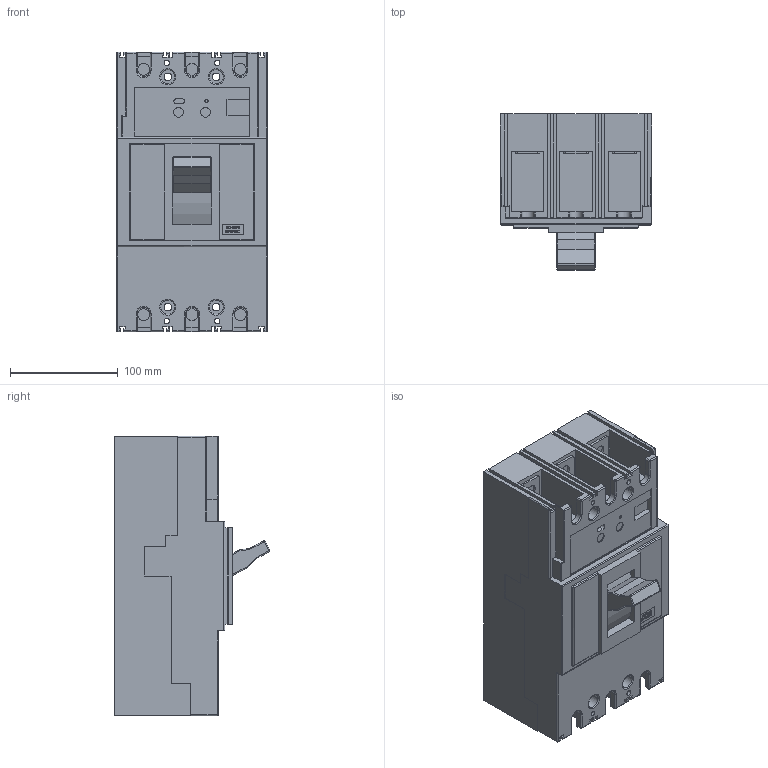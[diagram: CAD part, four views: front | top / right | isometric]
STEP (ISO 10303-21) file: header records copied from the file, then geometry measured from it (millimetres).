
FILE_DESCRIPTION((''),'2;1');
FILE_NAME('S400NJ3250','2012-09-20T',('cmahecha'),(''),'PRO/ENGINEER BY PARAMETRIC TECHNOLOGY CORPORATION, 2010280','PRO/ENGINEER BY PARAMETRIC TECHNOLOGY CORPORATION, 2010280','');
FILE_SCHEMA(('CONFIG_CONTROL_DESIGN'));
Length unit declared in the file: millimetre
Products named in the file (1): S400NJ3250
Bounding box: 140.4 x 144.93 x 260 mm (x, y, z)
Volume: 3304849.9 mm3; surface area: 221188.7 mm2
Topology: 1 solids, 1 shells, 759 faces, 2066 edges, 1348 vertices
Faces by surface type: plane 589, cylinder 142, sphere 14, torus 14
Entity records: 23766 total; most frequent: CARTESIAN_POINT 4363, ORIENTED_EDGE 4132, DIRECTION 3804, EDGE_CURVE 2066, VECTOR 1786, LINE 1786, VERTEX_POINT 1348, AXIS2_PLACEMENT_3D 1009
